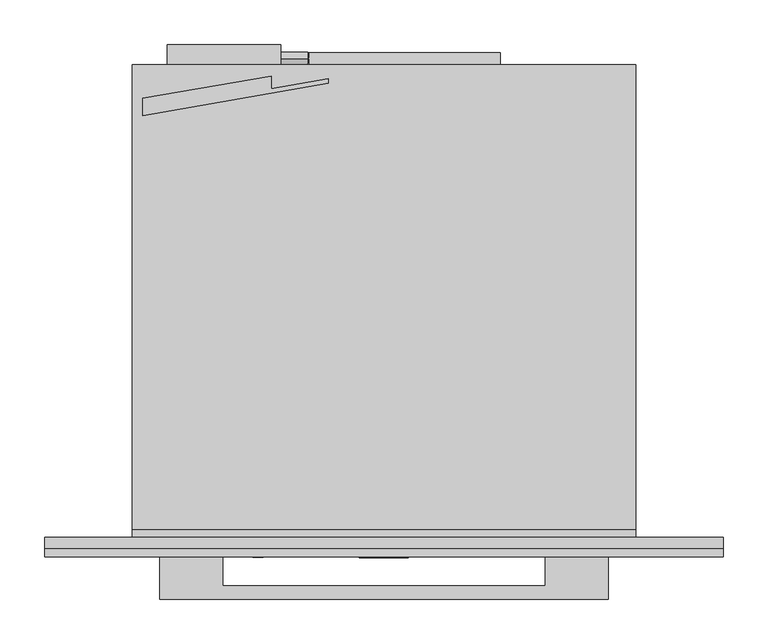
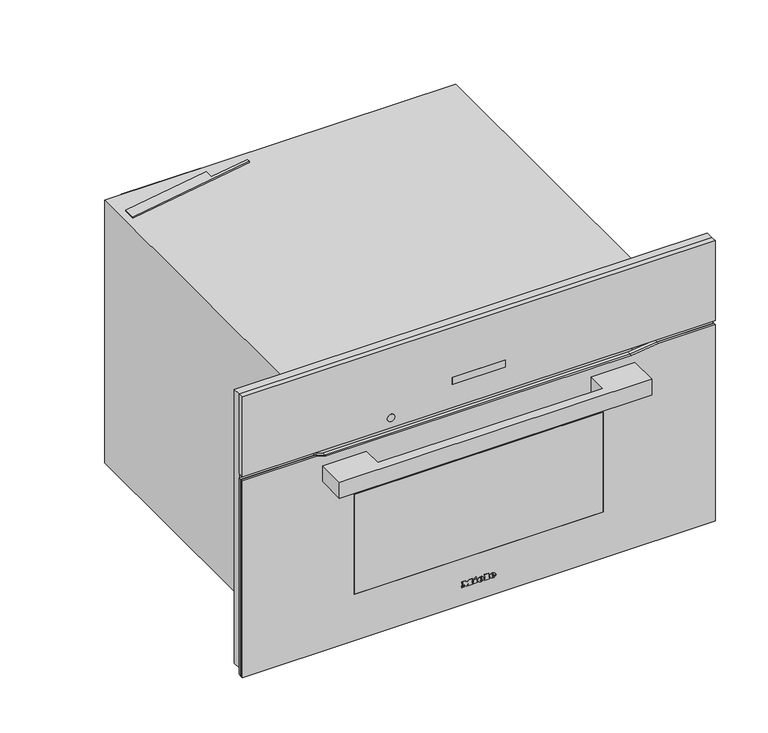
"""IFC4 building model written with IfcOpenShell, lengths in millimetres: proxy geometry, 11804580_USA_H7270BM_GRGR : 22727036_USA_11804580_H7270BM_GRGR."""

from ifc_helpers import new_model, si_unit, point, frame, frame_2d, origin, place, context, project, spatial, polyline, circle_curve, ellipse_curve, trimmed, segment, composite_curve, outline, extrude, faceted_brep, source, transform, mapped, element, save
from ifc_brep_helpers import plane_surface, cylinder_surface, revolved_surface, extruded_surface, advanced_brep


def specialty_equipment_ef1cf0d7(model_context):
    return source(origin(), model_context, "Body", "SolidModel", [
        advanced_brep(
        [(21.28, -23.0, 36.133), (21.28, -23.0, 37.042), (27.301, -23.0, 37.042), (16.825, -23.0, 37.042), (19.3, -23.0, 34.0), (27.148, -23.0, 36.133), (24.43, -23.0, 36.133), (22.288, -23.0, 35.125), (21.28, -23.0, 38.194), (21.28, -23.0, 39.175), (22.819, -23.0, 39.175), (22.819, -23.0, 38.194), (21.28, -22.0, 36.133), (22.288, -22.0, 35.125), (24.43, -22.0, 36.133), (27.148, -22.0, 36.133), (19.3, -22.0, 34.0), (16.825, -22.0, 37.042), (27.301, -22.0, 37.042), (21.28, -22.0, 37.042), (21.28, -22.0, 38.194), (22.819, -22.0, 38.194), (22.819, -22.0, 39.175), (21.28, -22.0, 39.175)],
        [
            (0, 1),
            (1, 2),
            (2, 3, ellipse_curve(frame((22.063, -23.0, 37.042), z_axis=(0.0, -1.0, 0.0), x_axis=(-1.0, 0.0, 0.0)), 5.238, 4.329)),
            (3, 4, circle_curve(frame((20.3080491, -23.0, 37.348), z_axis=(0.0, -1.0, 0.0), x_axis=(0.0, 0.0, -1.0)), 3.4964649)),
            (4, 5, circle_curve(frame((21.9581428, -23.0, 39.724), z_axis=(0.0, -1.0, 0.0), x_axis=(0.0, 0.0, -1.0)), 6.3110933)),
            (5, 6),
            (6, 7, circle_curve(frame((22.7279412, -23.0, 36.97), z_axis=(0.0, 1.0, 0.0), x_axis=(0.0, 0.0, -1.0)), 1.896727)),
            (7, 0, circle_curve(frame((22.288, -23.0, 36.133), z_axis=(0.0, 1.0, 0.0), x_axis=(0.0, 0.0, -1.0)), 1.008)),
            (8, 9),
            (9, 10, circle_curve(frame((22.0495, -23.0, 39.175), z_axis=(0.0, 1.0, 0.0), x_axis=(0.0, 0.0, -1.0)), 0.7695)),
            (10, 11),
            (11, 8),
            (12, 13, circle_curve(frame((22.288, -22.0, 36.133), z_axis=(0.0, -1.0, 0.0), x_axis=(0.0, 0.0, -1.0)), 1.008)),
            (13, 14, circle_curve(frame((22.7279412, -22.0, 36.97), z_axis=(0.0, -1.0, 0.0), x_axis=(0.0, 0.0, -1.0)), 1.896727)),
            (14, 15),
            (15, 16, circle_curve(frame((21.9581428, -22.0, 39.724), z_axis=(0.0, 1.0, 0.0), x_axis=(0.0, 0.0, -1.0)), 6.3110933)),
            (16, 17, circle_curve(frame((20.3080491, -22.0, 37.348), z_axis=(0.0, 1.0, 0.0), x_axis=(0.0, 0.0, -1.0)), 3.4964649)),
            (17, 18, ellipse_curve(frame((22.063, -22.0, 37.042), z_axis=(0.0, 1.0, 0.0), x_axis=(-1.0, 0.0, 0.0)), 5.238, 4.329)),
            (18, 19),
            (19, 12),
            (20, 21),
            (21, 22),
            (22, 23, circle_curve(frame((22.0495, -22.0, 39.175), z_axis=(0.0, -1.0, 0.0), x_axis=(0.0, 0.0, -1.0)), 0.7695)),
            (23, 20),
            (0, 12),
            (19, 1),
            (18, 2),
            (5, 15),
            (14, 6),
            (17, 3),
            (13, 7),
            (16, 4),
            (8, 20),
            (23, 9),
            (22, 10),
            (21, 11),
        ],
        [
            plane_surface(frame((21.28, -23.0, 37.042), z_axis=(0.0, -1.0, 0.0), x_axis=(0.0, 0.0, 1.0))),
            plane_surface(frame((21.28, -22.0, 37.042), z_axis=(0.0, 1.0, 0.0), x_axis=(0.0, 0.0, -1.0))),
            plane_surface(frame((21.28, -23.0, 36.133), z_axis=(1.0, 0.0, 0.0), x_axis=(0.0, 1.0, 0.0))),
            plane_surface(frame((21.28, -23.0, 37.042), z_axis=(0.0, 0.0, -1.0), x_axis=(0.0, 1.0, 0.0))),
            plane_surface(frame((27.148, -23.0, 36.133), z_axis=(0.0, 0.0, 1.0), x_axis=(0.0, 1.0, 0.0))),
            extruded_surface(trimmed(ellipse_curve(frame((22.063, -21.0, 37.042), z_axis=(0.0, -1.0, 0.0), x_axis=(-1.0, 0.0, 0.0)), 5.238, 4.329), [point((27.301, -21.0, 37.042))], [point((16.825, -21.0, 37.042))], True, "CARTESIAN"), (0.0, -1.0, 0.0), 1.0),
            revolved_surface(polyline([(22.7279412, -22.0, 35.073273), (22.7279412, -23.0, 35.073273)]), (22.7279412, -22.0, 36.97), (0.0, 1.0, 0.0)),
            revolved_surface(polyline([(22.288, -22.0, 35.125), (22.288, -23.0, 35.125)]), (22.288, -22.0, 36.133), (0.0, 1.0, 0.0)),
            cylinder_surface(frame((20.3080491, -22.0, 37.348), z_axis=(0.0, -1.0, 0.0), x_axis=(0.0, 0.0, -1.0)), 3.4964649),
            cylinder_surface(frame((21.9581428, -22.0, 39.724), z_axis=(0.0, -1.0, 0.0), x_axis=(0.0, 0.0, -1.0)), 6.3110933),
            plane_surface(frame((21.28, -23.0, 38.194), z_axis=(1.0, 0.0, 0.0), x_axis=(0.0, 1.0, 0.0))),
            revolved_surface(polyline([(22.0495, -22.0, 38.405499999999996), (22.0495, -23.0, 38.405499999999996)]), (22.0495, -22.0, 39.175), (0.0, 1.0, 0.0)),
            plane_surface(frame((22.819, -23.0, 39.175), z_axis=(-1.0, 0.0, 0.0), x_axis=(0.0, 1.0, 0.0))),
            plane_surface(frame((22.819, -23.0, 38.194), z_axis=(0.0, 0.0, 1.0), x_axis=(0.0, 1.0, 0.0))),
        ],
        [
            (0, [[1, 2, 3, 4, 5, 6, 7, 8], [9, 10, 11, 12]]),
            (1, [[13, 14, 15, 16, 17, 18, 19, 20], [21, 22, 23, 24]]),
            (2, [[-1, 25, -20, 26]]),
            (3, [[-2, -26, -19, 27]]),
            (4, [[-6, 28, -15, 29]]),
            (5, [[-3, -27, -18, 30]]),
            (6, [[-7, -29, -14, 31]]),
            (7, [[-8, -31, -13, -25]]),
            (8, [[-4, -30, -17, 32]]),
            (9, [[-5, -32, -16, -28]]),
            (10, [[-9, 33, -24, 34]]),
            (11, [[-10, -34, -23, 35]]),
            (12, [[-11, -35, -22, 36]]),
            (13, [[-12, -36, -21, -33]]),
        ],
    ),
        advanced_brep(
        [(2.497, -23.0, 36.133), (2.497, -23.0, 37.042), (8.518, -23.0, 37.042), (-1.958, -23.0, 37.042), (0.517, -23.0, 34.0), (8.365, -23.0, 36.133), (5.647, -23.0, 36.133), (3.505, -23.0, 35.125), (2.497, -23.0, 38.194), (2.497, -23.0, 39.175), (4.036, -23.0, 39.175), (4.036, -23.0, 38.194), (2.497, -22.0, 36.133), (3.505, -22.0, 35.125), (5.647, -22.0, 36.133), (8.365, -22.0, 36.133), (0.517, -22.0, 34.0), (-1.958, -22.0, 37.042), (8.518, -22.0, 37.042), (2.497, -22.0, 37.042), (2.497, -22.0, 38.194), (4.036, -22.0, 38.194), (4.036, -22.0, 39.175), (2.497, -22.0, 39.175)],
        [
            (0, 1),
            (1, 2),
            (2, 3, ellipse_curve(frame((3.28, -23.0, 37.042), z_axis=(0.0, -1.0, 0.0), x_axis=(-1.0, 0.0, 0.0)), 5.238, 4.329)),
            (3, 4, circle_curve(frame((1.5250491, -23.0, 37.348), z_axis=(0.0, -1.0, 0.0), x_axis=(0.0, 0.0, -1.0)), 3.4964649)),
            (4, 5, circle_curve(frame((3.1751428, -23.0, 39.724), z_axis=(0.0, -1.0, 0.0), x_axis=(0.0, 0.0, -1.0)), 6.3110933)),
            (5, 6),
            (6, 7, circle_curve(frame((3.9449412, -23.0, 36.97), z_axis=(0.0, 1.0, 0.0), x_axis=(0.0, 0.0, -1.0)), 1.896727)),
            (7, 0, circle_curve(frame((3.505, -23.0, 36.133), z_axis=(0.0, 1.0, 0.0), x_axis=(0.0, 0.0, -1.0)), 1.008)),
            (8, 9),
            (9, 10, circle_curve(frame((3.2665, -23.0, 39.175), z_axis=(0.0, 1.0, 0.0), x_axis=(0.0, 0.0, -1.0)), 0.7695)),
            (10, 11),
            (11, 8),
            (12, 13, circle_curve(frame((3.505, -22.0, 36.133), z_axis=(0.0, -1.0, 0.0), x_axis=(0.0, 0.0, -1.0)), 1.008)),
            (13, 14, circle_curve(frame((3.9449412, -22.0, 36.97), z_axis=(0.0, -1.0, 0.0), x_axis=(0.0, 0.0, -1.0)), 1.896727)),
            (14, 15),
            (15, 16, circle_curve(frame((3.1751428, -22.0, 39.724), z_axis=(0.0, 1.0, 0.0), x_axis=(0.0, 0.0, -1.0)), 6.3110933)),
            (16, 17, circle_curve(frame((1.5250491, -22.0, 37.348), z_axis=(0.0, 1.0, 0.0), x_axis=(0.0, 0.0, -1.0)), 3.4964649)),
            (17, 18, ellipse_curve(frame((3.28, -22.0, 37.042), z_axis=(0.0, 1.0, 0.0), x_axis=(-1.0, 0.0, 0.0)), 5.238, 4.329)),
            (18, 19),
            (19, 12),
            (20, 21),
            (21, 22),
            (22, 23, circle_curve(frame((3.2665, -22.0, 39.175), z_axis=(0.0, -1.0, 0.0), x_axis=(0.0, 0.0, -1.0)), 0.7695)),
            (23, 20),
            (0, 12),
            (19, 1),
            (18, 2),
            (5, 15),
            (14, 6),
            (17, 3),
            (13, 7),
            (16, 4),
            (8, 20),
            (23, 9),
            (22, 10),
            (21, 11),
        ],
        [
            plane_surface(frame((2.497, -23.0, 37.042), z_axis=(0.0, -1.0, 0.0), x_axis=(0.0, 0.0, 1.0))),
            plane_surface(frame((2.497, -22.0, 37.042), z_axis=(0.0, 1.0, 0.0), x_axis=(0.0, 0.0, -1.0))),
            plane_surface(frame((2.497, -23.0, 36.133), z_axis=(1.0, 0.0, 0.0), x_axis=(0.0, 1.0, 0.0))),
            plane_surface(frame((2.497, -23.0, 37.042), z_axis=(0.0, 0.0, -1.0), x_axis=(0.0, 1.0, 0.0))),
            plane_surface(frame((8.365, -23.0, 36.133), z_axis=(0.0, 0.0, 1.0), x_axis=(0.0, 1.0, 0.0))),
            extruded_surface(trimmed(ellipse_curve(frame((3.28, -21.0, 37.042), z_axis=(0.0, -1.0, 0.0), x_axis=(-1.0, 0.0, 0.0)), 5.238, 4.329), [point((8.518, -21.0, 37.042))], [point((-1.958, -21.0, 37.042))], True, "CARTESIAN"), (0.0, -1.0, 0.0), 1.0),
            revolved_surface(polyline([(3.9449412, -22.0, 35.073273), (3.9449412, -23.0, 35.073273)]), (3.9449412, -22.0, 36.97), (0.0, 1.0, 0.0)),
            revolved_surface(polyline([(3.505, -22.0, 35.125), (3.505, -23.0, 35.125)]), (3.505, -22.0, 36.133), (0.0, 1.0, 0.0)),
            cylinder_surface(frame((1.5250491, -22.0, 37.348), z_axis=(0.0, -1.0, 0.0), x_axis=(0.0, 0.0, -1.0)), 3.4964649),
            cylinder_surface(frame((3.1751428, -22.0, 39.724), z_axis=(0.0, -1.0, 0.0), x_axis=(0.0, 0.0, -1.0)), 6.3110933),
            plane_surface(frame((2.497, -23.0, 38.194), z_axis=(1.0, 0.0, 0.0), x_axis=(0.0, 1.0, 0.0))),
            revolved_surface(polyline([(3.2665, -22.0, 38.405499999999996), (3.2665, -23.0, 38.405499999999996)]), (3.2665, -22.0, 39.175), (0.0, 1.0, 0.0)),
            plane_surface(frame((4.036, -23.0, 39.175), z_axis=(-1.0, 0.0, 0.0), x_axis=(0.0, 1.0, 0.0))),
            plane_surface(frame((4.036, -23.0, 38.194), z_axis=(0.0, 0.0, 1.0), x_axis=(0.0, 1.0, 0.0))),
        ],
        [
            (0, [[1, 2, 3, 4, 5, 6, 7, 8], [9, 10, 11, 12]]),
            (1, [[13, 14, 15, 16, 17, 18, 19, 20], [21, 22, 23, 24]]),
            (2, [[-1, 25, -20, 26]]),
            (3, [[-2, -26, -19, 27]]),
            (4, [[-6, 28, -15, 29]]),
            (5, [[-3, -27, -18, 30]]),
            (6, [[-7, -29, -14, 31]]),
            (7, [[-8, -31, -13, -25]]),
            (8, [[-4, -30, -17, 32]]),
            (9, [[-5, -32, -16, -28]]),
            (10, [[-9, 33, -24, 34]]),
            (11, [[-10, -34, -23, 35]]),
            (12, [[-11, -35, -22, 36]]),
            (13, [[-12, -36, -21, -33]]),
        ],
    ),
        extrude(outline(polyline([(42.469, -7.34), (41.011, -6.656), (42.433, -3.605), (43.891, -4.28), (42.469, -7.34)])), frame((0.0, -23.0, 0.0), z_axis=(0.0, 1.0, 0.0), x_axis=(0.0, 0.0, 1.0)), (0.0, 0.0, 1.0), 1.0),
        extrude(outline(polyline([(40.813, -9.563), (39.202, -9.563), (39.202, -8.492), (35.512, -8.492), (35.512, -9.563), (34.0, -9.563), (34.0, -2.462), (35.512, -2.462), (35.512, -3.506), (40.813, -3.506), (40.813, -9.563)])), frame((0.0, -23.0, 0.0), z_axis=(0.0, 1.0, 0.0), x_axis=(0.0, 0.0, 1.0)), (0.0, 0.0, 1.0), 1.0),
        extrude(outline(polyline([(41.533, 9.022), (41.533, 10.102), (35.512, 10.102), (35.512, 9.022), (34.0, 9.022), (34.0, 16.321), (35.512, 16.321), (35.512, 15.214), (43.0, 15.214), (43.0, 9.022), (41.533, 9.022)])), frame((0.0, -23.0, 0.0), z_axis=(0.0, 1.0, 0.0), x_axis=(0.0, 0.0, 1.0)), (0.0, 0.0, 1.0), 1.0),
        extrude(outline(polyline([(41.533, -27.5), (41.533, -26.411), (35.512, -26.411), (35.512, -27.5), (34.0, -27.5), (34.0, -23.54), (35.512, -23.54), (35.512, -24.62), (39.3341247, -24.62), (34.0, -20.597), (39.4402223, -16.556), (35.512, -16.556), (35.512, -17.663), (34.0, -17.663), (34.0, -10.481), (35.512, -10.481), (35.512, -11.624), (41.533, -11.624), (41.533, -10.481), (43.0, -10.481), (43.0, -15.962), (39.625, -18.59), (43.0, -21.227), (43.0, -27.5), (41.533, -27.5)])), frame((0.0, -23.0, 0.0), z_axis=(0.0, 1.0, 0.0), x_axis=(0.0, 0.0, 1.0)), (0.0, 0.0, 1.0), 1.0),
        extrude(outline(polyline([(-250.0, -69.0), (-250.0, -22.0), (-180.0, -22.0), (-180.0, -54.0), (180.0, -54.0), (180.0, -22.0), (250.0, -22.0), (250.0, -69.0), (-250.0, -69.0)])), frame((0.0, 0.0, 291.0), z_axis=(0.0, 0.0, 1.0), x_axis=(1.0, 0.0, 0.0)), (0.0, 0.0, 1.0), 27.0),
        extrude(outline(polyline([(337.0, -378.5), (4.0, -378.5), (4.0, 378.5), (337.0, 378.5), (337.0, 287.3542631), (332.0, 244.0), (332.0, -244.0), (337.0, -260.3542631), (337.0, -378.5)])), frame((0.0, -18.0, 0.0), z_axis=(0.0, 1.0, 0.0), x_axis=(0.0, 0.0, 1.0)), (0.0, 0.0, 1.0), 5.0),
        extrude(outline(polyline([(337.0, -378.5), (4.0, -378.5), (4.0, 378.5), (337.0, 378.5), (337.0, 287.3542631), (332.0, 244.0), (332.0, -244.0), (337.0, -260.3542631), (337.0, -378.5)]), holes=[polyline([(252.0, 199.5), (82.0, 199.5), (82.0, -199.5), (252.0, -199.5), (252.0, 199.5)])]), frame((0.0, -22.0, 0.0), z_axis=(0.0, 1.0, 0.0), x_axis=(0.0, 0.0, 1.0)), (0.0, 0.0, 1.0), 4.0),
        extrude(outline(polyline([(-199.5, -18.0), (199.5, -18.0), (199.5, -22.0), (-199.5, -22.0), (-199.5, -18.0)])), frame((0.0, 0.0, 82.0), z_axis=(0.0, 0.0, 1.0), x_axis=(1.0, 0.0, 0.0)), (0.0, 0.0, 1.0), 170.0),
        extrude(outline(polyline([(-42.5, -21.0), (42.5, -21.0), (42.5, -22.0), (-42.5, -22.0), (-42.5, -21.0)])), frame((0.0, 0.0, 382.5), z_axis=(0.0, 0.0, 1.0), x_axis=(1.0, 0.0, 0.0)), (0.0, 0.0, 1.0), 12.0),
        faceted_brep([(378.5, -22.0, 479.0), (-378.5, -22.0, 479.0), (-378.5, -22.0, 344.0), (378.5, -22.0, 344.0), (42.5, -22.0, 394.5), (42.5, -22.0, 382.5), (-42.5, -22.0, 382.5), (-42.5, -22.0, 394.5), (378.5, -13.0, 479.0), (378.5, -13.0, 344.0), (-378.5, -13.0, 344.0), (-378.5, -13.0, 479.0), (42.5, -21.0, 394.5), (-42.5, -21.0, 394.5), (-42.5, -21.0, 382.5), (42.5, -21.0, 382.5)], [[[0, 1, 2, 3], [4, 5, 6, 7]], [[8, 9, 10, 11]], [[1, 0, 8, 11]], [[2, 1, 11, 10]], [[3, 2, 10, 9]], [[0, 3, 9, 8]], [[12, 13, 14, 15]], [[12, 15, 5, 4]], [[15, 14, 6, 5]], [[14, 13, 7, 6]], [[13, 12, 4, 7]]]),
        extrude(outline(composite_curve([segment(trimmed(circle_curve(frame_2d((361.0, -140.5745637)), 6.0), [point((361.0, -146.5745637))], [point((361.0, -134.5745637))], False, "CARTESIAN"), True, "CONTINUOUS"), segment(trimmed(circle_curve(frame_2d((361.0, -140.5745637)), 6.0), [point((361.0, -134.5745637))], [point((361.0, -146.5745637))], False, "CARTESIAN"), True, "CONTINUOUS")], self_intersect=False)), frame((0.0, -22.5, 0.0), z_axis=(0.0, 1.0, 0.0), x_axis=(0.0, 0.0, 1.0)), (0.0, 0.0, 1.0), 1.0),
        extrude(outline(polyline([(-269.0, 490.2851942), (-126.0, 515.1547594), (-126.0, 500.9446163), (-62.0, 512.0750511), (-62.0, 507.0), (-269.0, 471.0), (-269.0, 490.2851942)])), frame((0.0, 0.0, 445.0), z_axis=(0.0, 0.0, 1.0), x_axis=(1.0, 0.0, 0.0)), (0.0, 0.0, 1.0), 2.0),
        extrude(outline(polyline([(528.134837, 358.3256163), (533.9911721, 358.3256163), (533.9911721, 357.3256163), (529.134837, 357.3256163), (529.134837, 353.8256163), (532.0849866, 353.8256163), (532.0849866, 352.8256163), (529.134837, 352.8256163), (529.134837, 349.3256163), (533.9911721, 349.3256163), (533.9911721, 348.3256163), (528.134837, 348.3256163), (528.134837, 358.3256163)])), frame((-85.0, 0.0, 0.0), z_axis=(1.0, 0.0, 0.0), x_axis=(0.0, 1.0, 0.0)), (0.0, 0.0, 1.0), 1.0),
        extrude(outline(polyline([(535.4911721, 348.3256163), (535.4911721, 358.3256163), (536.5959622, 358.3256163), (536.5959622, 349.3256163), (540.4911721, 349.3256163), (540.4911721, 348.3256163), (535.4911721, 348.3256163)])), frame((-85.0, 0.0, 0.0), z_axis=(1.0, 0.0, 0.0), x_axis=(0.0, 1.0, 0.0)), (0.0, 0.0, 1.0), 1.0),
        extrude(outline(composite_curve([segment(trimmed(circle_curve(frame_2d((534.0, 353.0)), 7.5), [point((534.0, 345.5))], [point((534.0, 360.5))], False, "CARTESIAN"), True, "CONTINUOUS"), segment(trimmed(circle_curve(frame_2d((534.0, 353.0)), 7.5), [point((534.0, 360.5))], [point((534.0, 345.5))], False, "CARTESIAN"), True, "CONTINUOUS")], self_intersect=False)), frame((-115.0, 0.0, 0.0), z_axis=(1.0, 0.0, 0.0), x_axis=(0.0, 1.0, 0.0)), (0.0, 0.0, 1.0), 30.0),
        extrude(outline(polyline([(-115.0, 528.0), (-242.0, 528.0), (-242.0, 550.0), (-115.0, 550.0), (-115.0, 528.0)])), frame((0.0, 0.0, 325.0), z_axis=(0.0, 0.0, 1.0), x_axis=(1.0, 0.0, 0.0)), (0.0, 0.0, 1.0), 103.0),
        faceted_brep([(272.5, 25.0, 344.0), (-272.5, 25.0, 344.0), (-272.5, 25.0, 15.0), (272.5, 25.0, 15.0), (-235.0, 25.0, 270.0), (235.0, 25.0, 270.0), (235.0, 25.0, 60.0), (-235.0, 25.0, 60.0), (272.5, 0.0, 344.0), (-272.5, 0.0, 344.0), (-272.5, 0.0, 15.0), (272.5, 0.0, 15.0), (281.0, 0.0, 0.0), (281.0, 528.0, 0.0), (281.0, 528.0, 445.0), (281.0, 9.0, 445.0), (281.0, 9.0, 440.0), (281.0, 0.0, 440.0), (-281.0, 9.0, 445.0), (-281.0, 528.0, 445.0), (-281.0, 528.0, 0.0), (-281.0, 0.0, 0.0), (-281.0, 0.0, 440.0), (-281.0, 9.0, 440.0), (235.0, 433.0, 270.0), (-235.0, 433.0, 270.0), (-235.0, 433.0, 60.0), (235.0, 433.0, 60.0)], [[[0, 1, 2, 3], [4, 5, 6, 7]], [[1, 0, 8, 9]], [[2, 1, 9, 10]], [[0, 3, 11, 8]], [[12, 13, 14, 15, 16, 17]], [[18, 19, 20, 21, 22, 23]], [[13, 12, 21, 20]], [[14, 13, 20, 19]], [[15, 14, 19, 18]], [[21, 12, 17, 22], [9, 8, 11, 10]], [[24, 25, 26, 27]], [[25, 24, 5, 4]], [[26, 25, 4, 7]], [[27, 26, 7, 6]], [[24, 27, 6, 5]], [[3, 2, 10, 11]], [[16, 23, 22, 17]], [[23, 16, 15, 18]]]),
        extrude(outline(polyline([(130.0, 528.0), (-130.0, 528.0), (-130.0, 541.0), (130.0, 541.0), (130.0, 528.0)])), frame((0.0, 0.0, 36.0), z_axis=(0.0, 0.0, 1.0), x_axis=(1.0, 0.0, 0.0)), (0.0, 0.0, 1.0), 260.0),
        extrude(outline(polyline([(15.0, 378.5), (479.0, 378.5), (479.0, -378.5), (15.0, -378.5), (15.0, -272.5), (344.0, -272.5), (344.0, 272.5), (15.0, 272.5), (15.0, 378.5)])), frame((0.0, -13.0, 0.0), z_axis=(0.0, 1.0, 0.0), x_axis=(0.0, 0.0, 1.0)), (0.0, 0.0, 1.0), 13.0),
    ])


if __name__ == "__main__":
    model = new_model("IFC4")
    model_context = context("Model", 3, world=origin())
    ifc_project = project(units=[si_unit("LENGTHUNIT", "METRE", prefix="MILLI")], contexts=[model_context])
    site = spatial("IfcSite", under=ifc_project)
    building = spatial("IfcBuilding", under=site)
    placement = place(None, origin())
    specialty_equipment_shape = specialty_equipment_ef1cf0d7(model_context)
    element("IfcBuildingElementProxy", 1, Name="11804580_USA_H7270BM_GRGR : 22727036_USA_11804580_H7270BM_GRGR", ObjectType="11804580_USA_H7270BM_GRGR : 22727036_USA_11804580_H7270BM_GRGR", at=placement, inside=building, context=model_context, shape_type="MappedRepresentation", body=[
        mapped(specialty_equipment_shape, transform((0.0, 0.0, 0.0), x_axis=(1.0, 0.0, 0.0), y_axis=(0.0, 1.0, 0.0), z_axis=(0.0, 0.0, 1.0))),
    ])
    save(model, "model.ifc")
